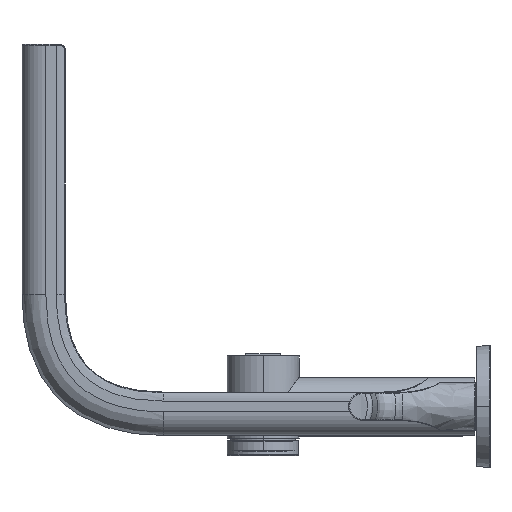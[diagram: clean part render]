
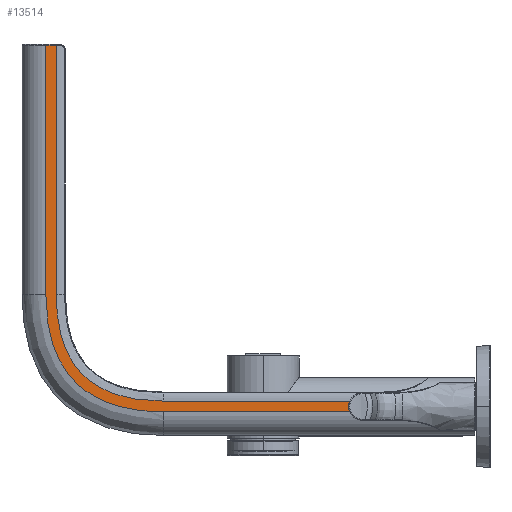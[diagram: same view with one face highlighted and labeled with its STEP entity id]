
A CAD part, left-side view. The second image highlights one B-rep face of the part: STEP entity #13514.
In plain terms, the highlighted planar face has unit normal (-1, 0, 0).
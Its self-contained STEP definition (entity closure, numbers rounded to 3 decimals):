
#13215=CARTESIAN_POINT('',(-11.25,7.3,2.5));
#13216=VERTEX_POINT('',#13215);
#13224=CARTESIAN_POINT('',(-11.25,7.3,-2.5));
#13225=VERTEX_POINT('',#13224);
#13226=CARTESIAN_POINT('',(-11.25,7.3,2.5));
#13227=DIRECTION('',(0.0,0.0,-1.0));
#13228=VECTOR('',#13227,5.);
#13229=LINE('',#13226,#13228);
#13230=EDGE_CURVE('',#13216,#13225,#13229,.T.);
#13399=CARTESIAN_POINT('',(-11.25,154.55,-2.5));
#13400=VERTEX_POINT('',#13399);
#13418=CARTESIAN_POINT('',(-11.25,154.55,-2.5));
#13419=DIRECTION('',(0.0,-1.0,0.));
#13420=VECTOR('',#13419,147.25);
#13421=LINE('',#13418,#13420);
#13422=EDGE_CURVE('',#13400,#13225,#13421,.T.);
#13427=CARTESIAN_POINT('',(-11.25,-2.838,-11.163));
#13428=DIRECTION('',(-1.0,0.0,0.0));
#13429=DIRECTION('',(0.0,0.0,1.0));
#13430=AXIS2_PLACEMENT_3D('',#13427,#13428,#13429);
#13431=PLANE('',#13430);
#13432=CARTESIAN_POINT('',(-11.25,154.55,2.5));
#13433=VERTEX_POINT('',#13432);
#13434=CARTESIAN_POINT('',(-11.25,205.05,53.));
#13435=VERTEX_POINT('',#13434);
#13436=CARTESIAN_POINT('',(-11.25,154.55,2.5));
#13437=CARTESIAN_POINT('',(-11.25,158.433,2.5));
#13438=CARTESIAN_POINT('',(-11.25,164.142,2.836));
#13439=CARTESIAN_POINT('',(-11.25,171.266,4.059));
#13440=CARTESIAN_POINT('',(-11.25,176.299,5.382));
#13441=CARTESIAN_POINT('',(-11.25,180.969,7.135));
#13442=CARTESIAN_POINT('',(-11.25,185.26,9.317));
#13443=CARTESIAN_POINT('',(-11.25,188.497,11.486));
#13444=CARTESIAN_POINT('',(-11.25,190.876,13.434));
#13445=CARTESIAN_POINT('',(-11.25,192.55,15.));
#13446=CARTESIAN_POINT('',(-11.25,194.116,16.674));
#13447=CARTESIAN_POINT('',(-11.25,196.064,19.053));
#13448=CARTESIAN_POINT('',(-11.25,198.233,22.29));
#13449=CARTESIAN_POINT('',(-11.25,200.415,26.581));
#13450=CARTESIAN_POINT('',(-11.25,202.168,31.251));
#13451=CARTESIAN_POINT('',(-11.25,203.491,36.284));
#13452=CARTESIAN_POINT('',(-11.25,204.714,43.408));
#13453=CARTESIAN_POINT('',(-11.25,205.05,49.117));
#13454=CARTESIAN_POINT('',(-11.25,205.05,53.));
#13455=B_SPLINE_CURVE_WITH_KNOTS('',3,(#13436,#13437,#13438,#13439,#13440,#13441,#13442,#13443,#13444,#13445,#13446,#13447,#13448,#13449,#13450,#13451,#13452,#13453,#13454),.UNSPECIFIED.,.F.,.U.,(4,1,1,1,1,1,1,1,1,1,1,1,1,1,1,1,4),(0.0,0.125,0.188,0.25,0.313,0.375,0.438,0.469,0.5,0.531,0.563,0.625,0.688,0.75,0.813,0.875,1.0),.UNSPECIFIED.);
#13456=EDGE_CURVE('',#13433,#13435,#13455,.T.);
#13457=ORIENTED_EDGE('',*,*,#13456,.T.);
#13458=CARTESIAN_POINT('',(-11.25,205.05,170.75));
#13459=VERTEX_POINT('',#13458);
#13460=CARTESIAN_POINT('',(-11.25,205.05,170.75));
#13461=DIRECTION('',(0.,0.,-1.));
#13462=VECTOR('',#13461,117.75);
#13463=LINE('',#13460,#13462);
#13464=EDGE_CURVE('',#13459,#13435,#13463,.T.);
#13465=ORIENTED_EDGE('',*,*,#13464,.F.);
#13466=CARTESIAN_POINT('',(-11.25,210.05,170.75));
#13467=VERTEX_POINT('',#13466);
#13468=CARTESIAN_POINT('',(-11.25,210.05,170.75));
#13469=DIRECTION('',(0.0,-1.0,0.));
#13470=VECTOR('',#13469,5.);
#13471=LINE('',#13468,#13470);
#13472=EDGE_CURVE('',#13467,#13459,#13471,.T.);
#13473=ORIENTED_EDGE('',*,*,#13472,.F.);
#13474=CARTESIAN_POINT('',(-11.25,210.05,53.));
#13475=VERTEX_POINT('',#13474);
#13476=CARTESIAN_POINT('',(-11.25,210.05,53.));
#13477=DIRECTION('',(0.0,0.,1.0));
#13478=VECTOR('',#13477,117.75);
#13479=LINE('',#13476,#13478);
#13480=EDGE_CURVE('',#13475,#13467,#13479,.T.);
#13481=ORIENTED_EDGE('',*,*,#13480,.F.);
#13482=CARTESIAN_POINT('',(-11.25,210.05,53.));
#13483=CARTESIAN_POINT('',(-11.25,210.05,48.925));
#13484=CARTESIAN_POINT('',(-11.25,209.698,42.893));
#13485=CARTESIAN_POINT('',(-11.25,208.388,35.239));
#13486=CARTESIAN_POINT('',(-11.25,206.945,29.747));
#13487=CARTESIAN_POINT('',(-11.25,205.005,24.573));
#13488=CARTESIAN_POINT('',(-11.25,202.563,19.765));
#13489=CARTESIAN_POINT('',(-11.25,200.104,16.094));
#13490=CARTESIAN_POINT('',(-11.25,197.882,13.38));
#13491=CARTESIAN_POINT('',(-11.25,196.089,11.461));
#13492=CARTESIAN_POINT('',(-11.25,194.17,9.668));
#13493=CARTESIAN_POINT('',(-11.25,191.456,7.446));
#13494=CARTESIAN_POINT('',(-11.25,187.785,4.987));
#13495=CARTESIAN_POINT('',(-11.25,182.977,2.545));
#13496=CARTESIAN_POINT('',(-11.25,177.803,0.605));
#13497=CARTESIAN_POINT('',(-11.25,172.311,-0.838));
#13498=CARTESIAN_POINT('',(-11.25,164.657,-2.148));
#13499=CARTESIAN_POINT('',(-11.25,158.625,-2.5));
#13500=CARTESIAN_POINT('',(-11.25,154.55,-2.5));
#13501=B_SPLINE_CURVE_WITH_KNOTS('',3,(#13482,#13483,#13484,#13485,#13486,#13487,#13488,#13489,#13490,#13491,#13492,#13493,#13494,#13495,#13496,#13497,#13498,#13499,#13500),.UNSPECIFIED.,.F.,.U.,(4,1,1,1,1,1,1,1,1,1,1,1,1,1,1,1,4),(0.0,0.125,0.188,0.25,0.313,0.375,0.438,0.469,0.5,0.531,0.563,0.625,0.688,0.75,0.813,0.875,1.0),.UNSPECIFIED.);
#13502=EDGE_CURVE('',#13475,#13400,#13501,.T.);
#13503=ORIENTED_EDGE('',*,*,#13502,.T.);
#13504=ORIENTED_EDGE('',*,*,#13422,.T.);
#13505=ORIENTED_EDGE('',*,*,#13230,.F.);
#13506=CARTESIAN_POINT('',(-11.25,154.55,2.5));
#13507=DIRECTION('',(0.,-1.,0.));
#13508=VECTOR('',#13507,147.25);
#13509=LINE('',#13506,#13508);
#13510=EDGE_CURVE('',#13433,#13216,#13509,.T.);
#13511=ORIENTED_EDGE('',*,*,#13510,.F.);
#13512=EDGE_LOOP('',(#13457,#13465,#13473,#13481,#13503,#13504,#13505,#13511));
#13513=FACE_OUTER_BOUND('',#13512,.T.);
#13514=ADVANCED_FACE('',(#13513),#13431,.T.);
